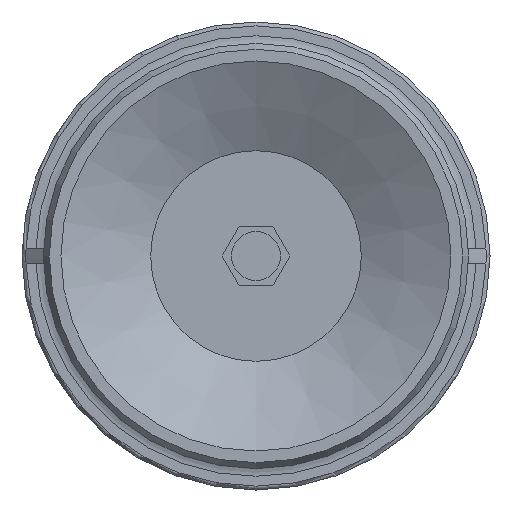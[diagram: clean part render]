
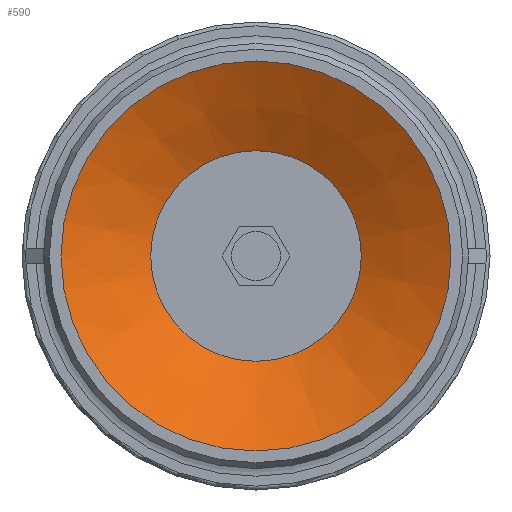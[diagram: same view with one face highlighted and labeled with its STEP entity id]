
A CAD part, front view. The second image highlights one B-rep face of the part: STEP entity #590.
In plain terms, the highlighted conical face has half-angle 61.631 degrees and reference radius 5.4 mm.
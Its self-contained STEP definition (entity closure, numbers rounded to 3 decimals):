
#590=ADVANCED_FACE('',(#919,#920),#921,.F.);
#919=FACE_BOUND('',#1260,.T.);
#920=FACE_OUTER_BOUND('',#1261,.T.);
#921=CONICAL_SURFACE('',#1262,5.4,1.076);
#1260=EDGE_LOOP('',(#2213));
#1261=EDGE_LOOP('',(#2214));
#1262=AXIS2_PLACEMENT_3D('',#2215,#2216,#2217);
#2213=ORIENTED_EDGE('',*,*,#2532,.F.);
#2214=ORIENTED_EDGE('',*,*,#2492,.T.);
#2215=CARTESIAN_POINT('',(0.0,2.484,0.0));
#2216=DIRECTION('',(-0.0,-1.0,0.));
#2217=DIRECTION('',(0.0,0.,-1.0));
#2492=EDGE_CURVE('',#2925,#2925,#2926,.T.);
#2532=EDGE_CURVE('',#2997,#2997,#2998,.T.);
#2925=VERTEX_POINT('',#3869);
#2926=CIRCLE('',#3870,10.0);
#2997=VERTEX_POINT('',#3953);
#2998=CIRCLE('',#3954,5.4);
#3869=CARTESIAN_POINT('',(0.0,0.,-10.0));
#3870=AXIS2_PLACEMENT_3D('',#4281,#4282,#4283);
#3953=CARTESIAN_POINT('',(0.0,2.484,-5.4));
#3954=AXIS2_PLACEMENT_3D('',#4377,#4378,#4379);
#4281=CARTESIAN_POINT('',(0.0,0.0,0.0));
#4282=DIRECTION('',(0.0,-1.0,0.));
#4283=DIRECTION('',(0.0,0.,-1.0));
#4377=CARTESIAN_POINT('',(0.0,2.484,0.0));
#4378=DIRECTION('',(0.0,-1.0,0.));
#4379=DIRECTION('',(0.0,0.,-1.0));
